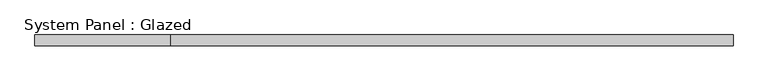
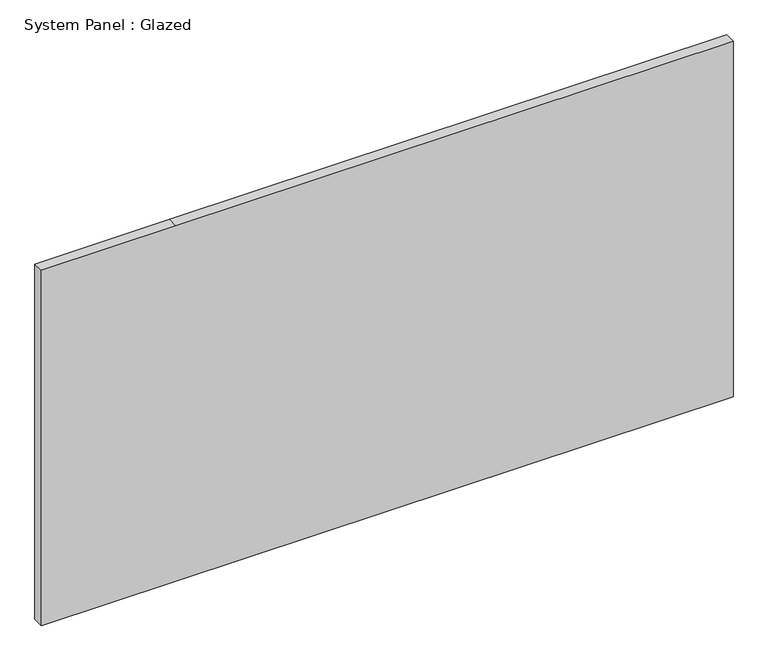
"""IFC4 building model written with IfcOpenShell, lengths in millimetres: plate geometry, System Panel : Glazed."""

from ifc_helpers import new_model, si_unit, frame, origin, place, context, project, spatial, polyline, outline, extrude, source, transform, mapped, element, save


def system_panel_glazed_8879a23a(model_context):
    return source(origin(), model_context, "Body", "SweptSolid", [
        extrude(outline(polyline([(0.0, -800.89375), (0.0, -488.95), (0.0, 800.89375), (869.95, 800.89375), (869.95, -488.95), (869.95, -800.89375), (0.0, -800.89375)])), frame((0.0, 19.05, 0.0), z_axis=(0.0, 1.0, 0.0), x_axis=(0.0, 0.0, 1.0)), (0.0, 0.0, 1.0), 25.4),
    ])


if __name__ == "__main__":
    model = new_model("IFC4")
    model_context = context("Model", 3, world=origin())
    ifc_project = project(units=[si_unit("LENGTHUNIT", "METRE", prefix="MILLI")], contexts=[model_context])
    site = spatial("IfcSite", under=ifc_project)
    building = spatial("IfcBuilding", under=site)
    placement = place(None, origin())
    system_panel_glazed_shape = system_panel_glazed_8879a23a(model_context)
    element("IfcPlate", 1, ObjectType="System Panel : Glazed", at=placement, inside=building, context=model_context, shape_type="MappedRepresentation", body=[
        mapped(system_panel_glazed_shape, transform((0.0, 0.0, 0.0), x_axis=(1.0, 0.0, 0.0), y_axis=(0.0, 1.0, 0.0), z_axis=(0.0, 0.0, 1.0))),
    ])
    save(model, "model.ifc")
